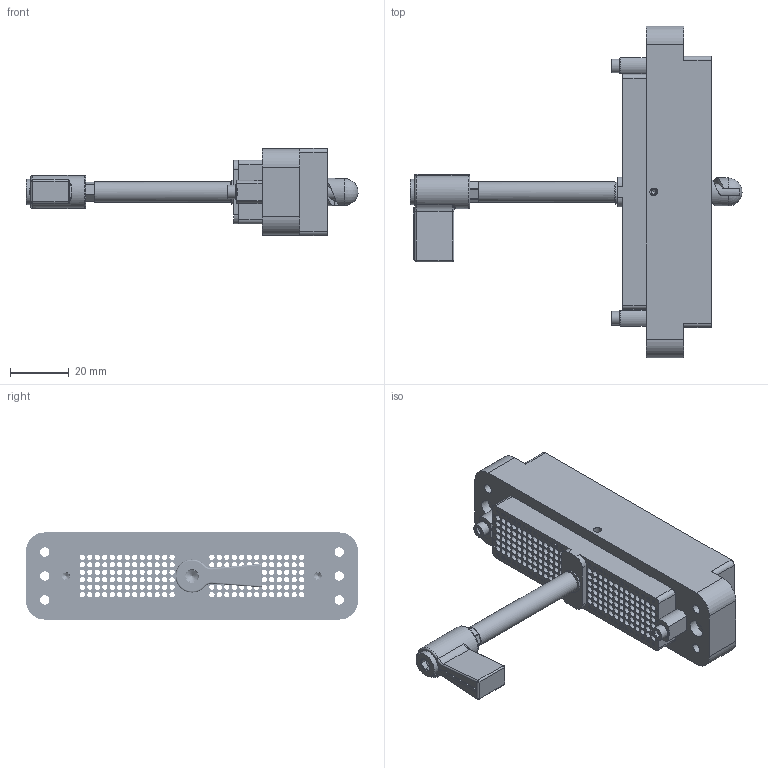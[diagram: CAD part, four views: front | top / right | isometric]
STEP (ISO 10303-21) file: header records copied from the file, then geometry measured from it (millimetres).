
FILE_DESCRIPTION(/* description */ (''),/* implementation_level */ '2;1');
FILE_NAME(/* name */ 'C:\Marketing\Inventor Web Projects\STP files\562604RevA-STP.stp',/* time_stamp */ '2014-03-18T12:13:24-05:00',/* author */ ('shodnett'),/* organization */ (''),/* preprocessor_version */ 'ST-DEVELOPER v15.2',/* originating_system */ 'Autodesk Inventor 2014',/* authorisation */ '');
FILE_SCHEMA (('AUTOMOTIVE_DESIGN { 1 0 10303 214 3 1 1 }'));
Products named in the file (1): 562604-CU1
Bounding box: 112.76 x 112.7 x 29.62 mm (x, y, z)
Surface area: 47772.8 mm2 (no closed solid volume)
Topology: 0 solids, 19 shells, 3424 faces, 8521 edges, 5649 vertices
Faces by surface type: plane 1939, bspline 848, cylinder 584, cone 37, torus 10, sphere 6
Full cylindrical faces by diameter (mm): 0.002 x1, 1.778 x156, 1.981 x1, 2.159 x2, 2.261 x312, 2.642 x1, 2.845 x2, 3.175 x10, 3.505 x1, 3.632 x2, 4.013 x2, 4.343 x1, 4.572 x4, 4.623 x2, 4.648 x2, 5.309 x2, 5.4 x1, 5.486 x1, 5.867 x3, 5.994 x6, 6.985 x3, 7.036 x1, 7.3 x1, 8.712 x1, 9.2 x1, 9.52 x1
Entity records: 108447 total; most frequent: CARTESIAN_POINT 29706, ORIENTED_EDGE 15872, DIRECTION 12633, EDGE_CURVE 7936, VERTEX_POINT 5621, LINE 4877, VECTOR 4877, EDGE_LOOP 4837
